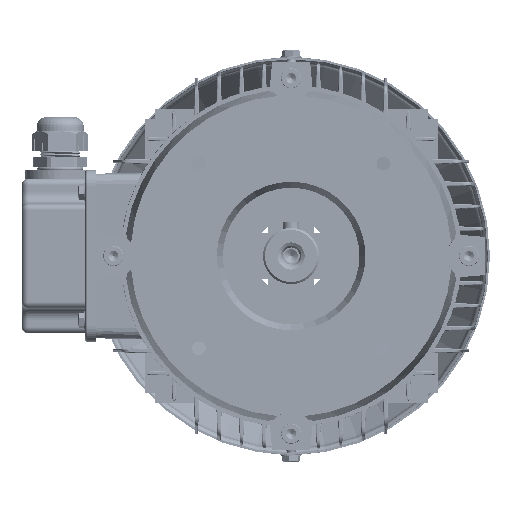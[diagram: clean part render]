
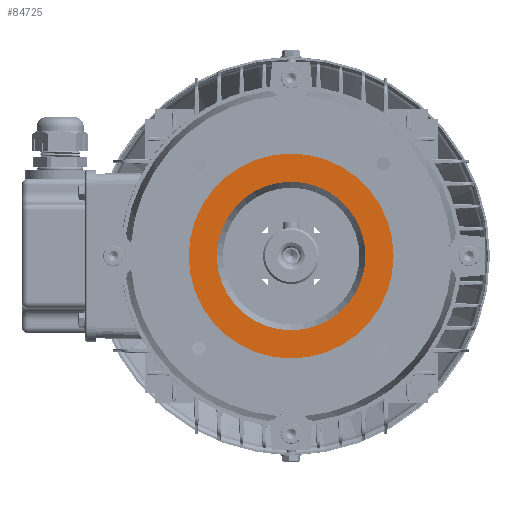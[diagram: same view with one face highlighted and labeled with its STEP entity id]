
A CAD part, left-side view. The second image highlights one B-rep face of the part: STEP entity #84725.
In plain terms, the highlighted planar face has unit normal (-1, 0, 0).
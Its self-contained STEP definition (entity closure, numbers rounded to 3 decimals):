
#3324 = CARTESIAN_POINT ( 'NONE',  ( -10.5, 0., 37. ) ) ;
#5495 = CARTESIAN_POINT ( 'NONE',  ( -10.5, 0., -37. ) ) ;
#6738 = CARTESIAN_POINT ( 'NONE',  ( -10.5, 0., 0. ) ) ;
#19740 = ORIENTED_EDGE ( 'NONE', *, *, #98744, .F. ) ;
#19924 = DIRECTION ( 'NONE',  ( 1., 0., 0. ) ) ;
#22405 = EDGE_CURVE ( 'NONE', #61088, #75542, #34578, .T. ) ;
#23219 = VERTEX_POINT ( 'NONE', #5495 ) ;
#31948 = AXIS2_PLACEMENT_3D ( 'NONE', #106137, #71741, #48583 ) ;
#34578 = CIRCLE ( 'NONE', #62699, 51. ) ;
#37175 = ORIENTED_EDGE ( 'NONE', *, *, #133016, .F. ) ;
#38138 = EDGE_LOOP ( 'NONE', ( #91359, #77869 ) ) ;
#40830 = CARTESIAN_POINT ( 'NONE',  ( -10.5, 0., -51. ) ) ;
#43332 = DIRECTION ( 'NONE',  ( -1., 0., 0. ) ) ;
#43801 = DIRECTION ( 'NONE',  ( 0., 0., 1. ) ) ;
#48533 = DIRECTION ( 'NONE',  ( -1., 0., 0. ) ) ;
#48583 = DIRECTION ( 'NONE',  ( 0., 0., 1. ) ) ;
#50895 = AXIS2_PLACEMENT_3D ( 'NONE', #64736, #19924, #110007 ) ;
#59431 = FACE_BOUND ( 'NONE', #119401, .T. ) ;
#61088 = VERTEX_POINT ( 'NONE', #61846 ) ;
#61846 = CARTESIAN_POINT ( 'NONE',  ( -10.5, 0., 51. ) ) ;
#62295 = CARTESIAN_POINT ( 'NONE',  ( -10.5, 0., 0. ) ) ;
#62699 = AXIS2_PLACEMENT_3D ( 'NONE', #6738, #48533, #138136 ) ;
#64736 = CARTESIAN_POINT ( 'NONE',  ( -10.5, 37., 0. ) ) ;
#71741 = DIRECTION ( 'NONE',  ( -1., 0., 0. ) ) ;
#73642 = DIRECTION ( 'NONE',  ( 0., 0., 1. ) ) ;
#74594 = PLANE ( 'NONE',  #50895 ) ;
#75542 = VERTEX_POINT ( 'NONE', #40830 ) ;
#76112 = CIRCLE ( 'NONE', #134109, 37. ) ;
#77869 = ORIENTED_EDGE ( 'NONE', *, *, #106707, .T. ) ;
#84537 = VERTEX_POINT ( 'NONE', #3324 ) ;
#84725 = ADVANCED_FACE ( 'NONE', ( #59431, #128234 ), #74594, .F. ) ;
#88097 = CARTESIAN_POINT ( 'NONE',  ( -10.5, 0., 0. ) ) ;
#91359 = ORIENTED_EDGE ( 'NONE', *, *, #22405, .T. ) ;
#98744 = EDGE_CURVE ( 'NONE', #23219, #84537, #76112, .T. ) ;
#106137 = CARTESIAN_POINT ( 'NONE',  ( -10.5, 0., 0. ) ) ;
#106707 = EDGE_CURVE ( 'NONE', #75542, #61088, #132013, .T. ) ;
#108562 = DIRECTION ( 'NONE',  ( -1., 0., 0. ) ) ;
#110007 = DIRECTION ( 'NONE',  ( 0., 0., -1. ) ) ;
#116917 = AXIS2_PLACEMENT_3D ( 'NONE', #62295, #108562, #73642 ) ;
#119401 = EDGE_LOOP ( 'NONE', ( #37175, #19740 ) ) ;
#122398 = CIRCLE ( 'NONE', #31948, 37. ) ;
#128234 = FACE_OUTER_BOUND ( 'NONE', #38138, .T. ) ;
#132013 = CIRCLE ( 'NONE', #116917, 51. ) ;
#133016 = EDGE_CURVE ( 'NONE', #84537, #23219, #122398, .T. ) ;
#134109 = AXIS2_PLACEMENT_3D ( 'NONE', #88097, #43332, #43801 ) ;
#138136 = DIRECTION ( 'NONE',  ( 0., 0., 1. ) ) ;
